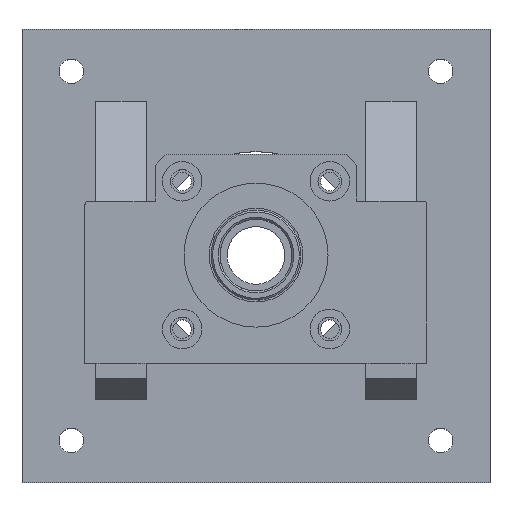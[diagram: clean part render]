
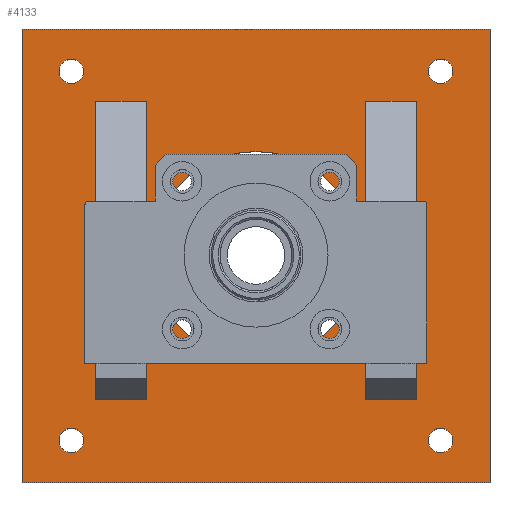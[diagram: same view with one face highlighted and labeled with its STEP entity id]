
A CAD part, top view. The second image highlights one B-rep face of the part: STEP entity #4133.
In plain terms, the highlighted planar face has unit normal (0, 0, 1).
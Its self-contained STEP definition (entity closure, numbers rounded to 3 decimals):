
#2146=DIRECTION('',(-1.,0.,0.));
#2147=VECTOR('',#2146,130.);
#2148=CARTESIAN_POINT('',(65.,-63.,119.));
#2149=LINE('',#2148,#2147);
#2150=DIRECTION('',(0.,1.,0.));
#2151=VECTOR('',#2150,126.);
#2152=CARTESIAN_POINT('',(-65.,-63.,119.));
#2153=LINE('',#2152,#2151);
#2154=DIRECTION('',(1.,0.,0.));
#2155=VECTOR('',#2154,130.);
#2156=CARTESIAN_POINT('',(-65.,63.,119.));
#2157=LINE('',#2156,#2155);
#2158=DIRECTION('',(0.,-1.,0.));
#2159=VECTOR('',#2158,126.);
#2160=CARTESIAN_POINT('',(65.,63.,119.));
#2161=LINE('',#2160,#2159);
#2162=CARTESIAN_POINT('',(51.265,-51.265,119.));
#2163=DIRECTION('',(0.,0.,1.));
#2164=DIRECTION('',(-1.,0.,0.));
#2165=AXIS2_PLACEMENT_3D('',#2162,#2163,#2164);
#2167=CARTESIAN_POINT('',(51.265,-51.265,119.));
#2168=DIRECTION('',(0.,0.,1.));
#2169=DIRECTION('',(1.,0.,0.));
#2170=AXIS2_PLACEMENT_3D('',#2167,#2168,#2169);
#2172=CARTESIAN_POINT('',(-51.265,51.265,119.));
#2173=DIRECTION('',(0.,0.,1.));
#2174=DIRECTION('',(-1.,0.,0.));
#2175=AXIS2_PLACEMENT_3D('',#2172,#2173,#2174);
#2177=CARTESIAN_POINT('',(-51.265,51.265,119.));
#2178=DIRECTION('',(0.,0.,1.));
#2179=DIRECTION('',(1.,0.,0.));
#2180=AXIS2_PLACEMENT_3D('',#2177,#2178,#2179);
#2182=CARTESIAN_POINT('',(-51.265,-51.265,119.));
#2183=DIRECTION('',(0.,0.,1.));
#2184=DIRECTION('',(-1.,0.,0.));
#2185=AXIS2_PLACEMENT_3D('',#2182,#2183,#2184);
#2187=CARTESIAN_POINT('',(-51.265,-51.265,119.));
#2188=DIRECTION('',(0.,0.,1.));
#2189=DIRECTION('',(1.,0.,0.));
#2190=AXIS2_PLACEMENT_3D('',#2187,#2188,#2189);
#2192=DIRECTION('',(-1.,0.,0.));
#2193=VECTOR('',#2192,14.);
#2194=CARTESIAN_POINT('',(44.5,43.,119.));
#2195=LINE('',#2194,#2193);
#2196=DIRECTION('',(0.,-1.,0.));
#2197=VECTOR('',#2196,83.);
#2198=CARTESIAN_POINT('',(30.5,43.,119.));
#2199=LINE('',#2198,#2197);
#2200=DIRECTION('',(1.,0.,0.));
#2201=VECTOR('',#2200,14.);
#2202=CARTESIAN_POINT('',(30.5,-40.,119.));
#2203=LINE('',#2202,#2201);
#2204=DIRECTION('',(0.,1.,0.));
#2205=VECTOR('',#2204,83.);
#2206=CARTESIAN_POINT('',(44.5,-40.,119.));
#2207=LINE('',#2206,#2205);
#2208=DIRECTION('',(0.,-1.,0.));
#2209=VECTOR('',#2208,83.);
#2210=CARTESIAN_POINT('',(-44.5,43.,119.));
#2211=LINE('',#2210,#2209);
#2212=DIRECTION('',(0.,1.,0.));
#2213=VECTOR('',#2212,83.);
#2214=CARTESIAN_POINT('',(-30.5,-40.,119.));
#2215=LINE('',#2214,#2213);
#2216=CARTESIAN_POINT('',(0.,0.,119.));
#2217=DIRECTION('',(0.,0.,1.));
#2218=DIRECTION('',(-1.,0.,0.));
#2219=AXIS2_PLACEMENT_3D('',#2216,#2217,#2218);
#2221=CARTESIAN_POINT('',(0.,0.,119.));
#2222=DIRECTION('',(0.,0.,1.));
#2223=DIRECTION('',(1.,0.,0.));
#2224=AXIS2_PLACEMENT_3D('',#2221,#2222,#2223);
#2226=CARTESIAN_POINT('',(51.265,51.265,119.));
#2227=DIRECTION('',(0.,0.,1.));
#2228=DIRECTION('',(-1.,0.,0.));
#2229=AXIS2_PLACEMENT_3D('',#2226,#2227,#2228);
#2231=CARTESIAN_POINT('',(51.265,51.265,119.));
#2232=DIRECTION('',(0.,0.,1.));
#2233=DIRECTION('',(1.,0.,0.));
#2234=AXIS2_PLACEMENT_3D('',#2231,#2232,#2233);
#2398=DIRECTION('',(1.,0.,0.));
#2399=VECTOR('',#2398,14.);
#2400=CARTESIAN_POINT('',(-44.5,43.,119.));
#2401=LINE('',#2400,#2399);
#2426=DIRECTION('',(-1.,0.,0.));
#2427=VECTOR('',#2426,14.);
#2428=CARTESIAN_POINT('',(-30.5,-40.,119.));
#2429=LINE('',#2428,#2427);
#3392=CARTESIAN_POINT('',(30.5,-40.,119.));
#3393=VERTEX_POINT('',#3392);
#3394=CARTESIAN_POINT('',(30.5,43.,119.));
#3395=VERTEX_POINT('',#3394);
#3508=CARTESIAN_POINT('',(44.5,43.,119.));
#3509=VERTEX_POINT('',#3508);
#3510=CARTESIAN_POINT('',(44.5,-40.,119.));
#3511=VERTEX_POINT('',#3510);
#3512=CARTESIAN_POINT('',(65.,-63.,119.));
#3513=CARTESIAN_POINT('',(-65.,-63.,119.));
#3514=VERTEX_POINT('',#3512);
#3515=VERTEX_POINT('',#3513);
#3516=CARTESIAN_POINT('',(-65.,63.,119.));
#3517=VERTEX_POINT('',#3516);
#3518=CARTESIAN_POINT('',(65.,63.,119.));
#3519=VERTEX_POINT('',#3518);
#3520=CARTESIAN_POINT('',(47.865,-51.265,119.));
#3521=CARTESIAN_POINT('',(54.665,-51.265,119.));
#3522=VERTEX_POINT('',#3520);
#3523=VERTEX_POINT('',#3521);
#3524=CARTESIAN_POINT('',(-54.665,51.265,119.));
#3525=CARTESIAN_POINT('',(-47.865,51.265,119.));
#3526=VERTEX_POINT('',#3524);
#3527=VERTEX_POINT('',#3525);
#3528=CARTESIAN_POINT('',(-54.665,-51.265,119.));
#3529=CARTESIAN_POINT('',(-47.865,-51.265,119.));
#3530=VERTEX_POINT('',#3528);
#3531=VERTEX_POINT('',#3529);
#3532=CARTESIAN_POINT('',(-44.5,43.,119.));
#3533=CARTESIAN_POINT('',(-44.5,-40.,119.));
#3534=VERTEX_POINT('',#3532);
#3535=VERTEX_POINT('',#3533);
#3536=CARTESIAN_POINT('',(-30.5,-40.,119.));
#3537=VERTEX_POINT('',#3536);
#3538=CARTESIAN_POINT('',(-30.5,43.,119.));
#3539=VERTEX_POINT('',#3538);
#3540=CARTESIAN_POINT('',(-29.,0.,119.));
#3541=CARTESIAN_POINT('',(29.,0.,119.));
#3542=VERTEX_POINT('',#3540);
#3543=VERTEX_POINT('',#3541);
#3544=CARTESIAN_POINT('',(47.865,51.265,119.));
#3545=CARTESIAN_POINT('',(54.665,51.265,119.));
#3546=VERTEX_POINT('',#3544);
#3547=VERTEX_POINT('',#3545);
#4071=CARTESIAN_POINT('',(0.,0.,119.));
#4072=DIRECTION('',(0.,0.,1.));
#4073=DIRECTION('',(1.,0.,0.));
#4074=AXIS2_PLACEMENT_3D('',#4071,#4072,#4073);
#4075=PLANE('',#4074);
#4077=ORIENTED_EDGE('',*,*,#4076,.T.);
#4079=ORIENTED_EDGE('',*,*,#4078,.T.);
#4081=ORIENTED_EDGE('',*,*,#4080,.T.);
#4083=ORIENTED_EDGE('',*,*,#4082,.T.);
#4084=EDGE_LOOP('',(#4077,#4079,#4081,#4083));
#4085=FACE_OUTER_BOUND('',#4084,.F.);
#4087=ORIENTED_EDGE('',*,*,#4086,.T.);
#4089=ORIENTED_EDGE('',*,*,#4088,.T.);
#4090=EDGE_LOOP('',(#4087,#4089));
#4091=FACE_BOUND('',#4090,.F.);
#4093=ORIENTED_EDGE('',*,*,#4092,.T.);
#4095=ORIENTED_EDGE('',*,*,#4094,.T.);
#4096=EDGE_LOOP('',(#4093,#4095));
#4097=FACE_BOUND('',#4096,.F.);
#4099=ORIENTED_EDGE('',*,*,#4098,.T.);
#4101=ORIENTED_EDGE('',*,*,#4100,.T.);
#4102=EDGE_LOOP('',(#4099,#4101));
#4103=FACE_BOUND('',#4102,.F.);
#4104=ORIENTED_EDGE('',*,*,#4048,.T.);
#4105=ORIENTED_EDGE('',*,*,#3855,.T.);
#4107=ORIENTED_EDGE('',*,*,#4106,.T.);
#4108=ORIENTED_EDGE('',*,*,#4058,.T.);
#4109=EDGE_LOOP('',(#4104,#4105,#4107,#4108));
#4110=FACE_BOUND('',#4109,.F.);
#4112=ORIENTED_EDGE('',*,*,#4111,.T.);
#4114=ORIENTED_EDGE('',*,*,#4113,.F.);
#4116=ORIENTED_EDGE('',*,*,#4115,.T.);
#4118=ORIENTED_EDGE('',*,*,#4117,.F.);
#4119=EDGE_LOOP('',(#4112,#4114,#4116,#4118));
#4120=FACE_BOUND('',#4119,.F.);
#4122=ORIENTED_EDGE('',*,*,#4121,.T.);
#4124=ORIENTED_EDGE('',*,*,#4123,.T.);
#4125=EDGE_LOOP('',(#4122,#4124));
#4126=FACE_BOUND('',#4125,.F.);
#4128=ORIENTED_EDGE('',*,*,#4127,.T.);
#4130=ORIENTED_EDGE('',*,*,#4129,.T.);
#4131=EDGE_LOOP('',(#4128,#4130));
#4132=FACE_BOUND('',#4131,.F.);
#2166=CIRCLE('',#2165,3.4);
#2171=CIRCLE('',#2170,3.4);
#2176=CIRCLE('',#2175,3.4);
#2181=CIRCLE('',#2180,3.4);
#2186=CIRCLE('',#2185,3.4);
#2191=CIRCLE('',#2190,3.4);
#2220=CIRCLE('',#2219,29.);
#2225=CIRCLE('',#2224,29.);
#2230=CIRCLE('',#2229,3.4);
#2235=CIRCLE('',#2234,3.4);
#3855=EDGE_CURVE('',#3395,#3393,#2199,.T.);
#4048=EDGE_CURVE('',#3509,#3395,#2195,.T.);
#4058=EDGE_CURVE('',#3511,#3509,#2207,.T.);
#4076=EDGE_CURVE('',#3514,#3515,#2149,.T.);
#4078=EDGE_CURVE('',#3515,#3517,#2153,.T.);
#4080=EDGE_CURVE('',#3517,#3519,#2157,.T.);
#4082=EDGE_CURVE('',#3519,#3514,#2161,.T.);
#4086=EDGE_CURVE('',#3522,#3523,#2166,.T.);
#4088=EDGE_CURVE('',#3523,#3522,#2171,.T.);
#4092=EDGE_CURVE('',#3526,#3527,#2176,.T.);
#4094=EDGE_CURVE('',#3527,#3526,#2181,.T.);
#4098=EDGE_CURVE('',#3530,#3531,#2186,.T.);
#4100=EDGE_CURVE('',#3531,#3530,#2191,.T.);
#4106=EDGE_CURVE('',#3393,#3511,#2203,.T.);
#4111=EDGE_CURVE('',#3534,#3535,#2211,.T.);
#4113=EDGE_CURVE('',#3537,#3535,#2429,.T.);
#4115=EDGE_CURVE('',#3537,#3539,#2215,.T.);
#4117=EDGE_CURVE('',#3534,#3539,#2401,.T.);
#4121=EDGE_CURVE('',#3542,#3543,#2220,.T.);
#4123=EDGE_CURVE('',#3543,#3542,#2225,.T.);
#4127=EDGE_CURVE('',#3546,#3547,#2230,.T.);
#4129=EDGE_CURVE('',#3547,#3546,#2235,.T.);
#4133=ADVANCED_FACE('',(#4085,#4091,#4097,#4103,#4110,#4120,#4126,#4132),#4075,
.T.);
